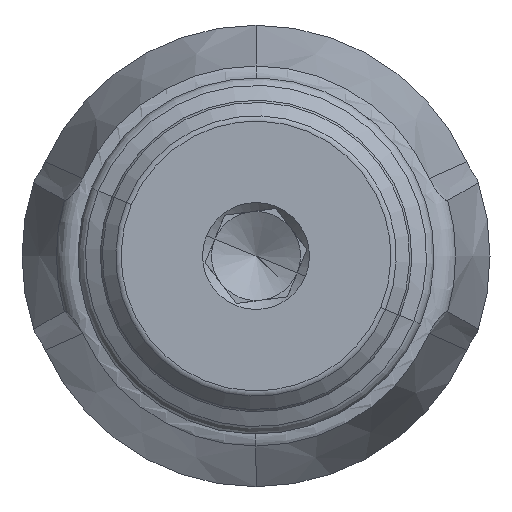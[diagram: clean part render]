
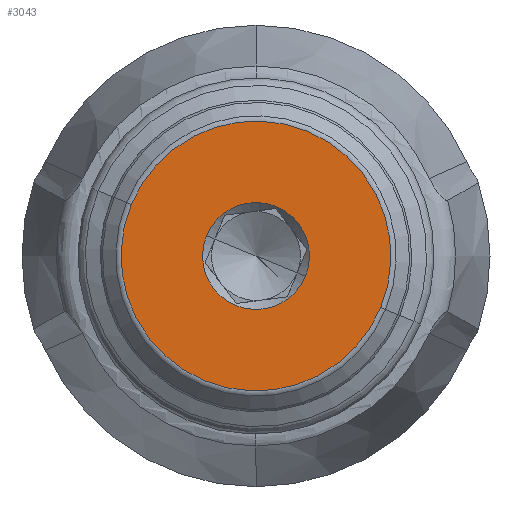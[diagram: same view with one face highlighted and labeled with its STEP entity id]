
A CAD part, left-side view. The second image highlights one B-rep face of the part: STEP entity #3043.
In plain terms, the highlighted planar face has unit normal (-1, 0, 0).
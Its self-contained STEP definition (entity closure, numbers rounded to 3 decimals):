
#882 = AXIS2_PLACEMENT_3D ( 'NONE', #7438, #13236, #7531 ) ;
#1498 = CARTESIAN_POINT ( 'NONE',  ( -68.388, -0.607, 0. ) ) ;
#2628 = ORIENTED_EDGE ( 'NONE', *, *, #9320, .F. ) ;
#2897 = CARTESIAN_POINT ( 'NONE',  ( -68.388, -0.607, 0. ) ) ;
#3043 = ADVANCED_FACE ( 'NONE', ( #5704, #5344 ), #13323, .T. ) ;
#3272 = CIRCLE ( 'NONE', #9980, 9.093 ) ;
#3772 = DIRECTION ( 'NONE',  ( 1., 0., 0. ) ) ;
#3963 = DIRECTION ( 'NONE',  ( 0., -0.924, -0.382 ) ) ;
#4039 = CARTESIAN_POINT ( 'NONE',  ( -68.388, 2.72, 1.375 ) ) ;
#4343 = EDGE_CURVE ( 'NONE', #5880, #13676, #6584, .T. ) ;
#4866 = DIRECTION ( 'NONE',  ( 1., 0., 0. ) ) ;
#4902 = DIRECTION ( 'NONE',  ( 0., -0.924, -0.382 ) ) ;
#5116 = AXIS2_PLACEMENT_3D ( 'NONE', #5125, #10858, #13058 ) ;
#5125 = CARTESIAN_POINT ( 'NONE',  ( -68.388, -0.607, 0. ) ) ;
#5320 = ORIENTED_EDGE ( 'NONE', *, *, #4343, .T. ) ;
#5344 = FACE_OUTER_BOUND ( 'NONE', #10091, .T. ) ;
#5493 = AXIS2_PLACEMENT_3D ( 'NONE', #1498, #4866, #8361 ) ;
#5601 = CIRCLE ( 'NONE', #14832, 9.093 ) ;
#5704 = FACE_BOUND ( 'NONE', #13238, .T. ) ;
#5880 = VERTEX_POINT ( 'NONE', #14998 ) ;
#5948 = EDGE_CURVE ( 'NONE', #13676, #5880, #8007, .T. ) ;
#6266 = CARTESIAN_POINT ( 'NONE',  ( -68.388, -0.607, 0. ) ) ;
#6525 = EDGE_CURVE ( 'NONE', #7489, #12761, #3272, .T. ) ;
#6584 = CIRCLE ( 'NONE', #5116, 3.6 ) ;
#7438 = CARTESIAN_POINT ( 'NONE',  ( -68.388, -4.079, 8.404 ) ) ;
#7489 = VERTEX_POINT ( 'NONE', #10701 ) ;
#7531 = DIRECTION ( 'NONE',  ( 0., 0.924, 0.382 ) ) ;
#8007 = CIRCLE ( 'NONE', #5493, 3.6 ) ;
#8361 = DIRECTION ( 'NONE',  ( 0., -0.924, -0.382 ) ) ;
#9320 = EDGE_CURVE ( 'NONE', #12761, #7489, #5601, .T. ) ;
#9980 = AXIS2_PLACEMENT_3D ( 'NONE', #6266, #3772, #4902 ) ;
#10014 = CARTESIAN_POINT ( 'NONE',  ( -68.388, -9.011, -3.472 ) ) ;
#10091 = EDGE_LOOP ( 'NONE', ( #2628, #13846 ) ) ;
#10701 = CARTESIAN_POINT ( 'NONE',  ( -68.388, 7.797, 3.472 ) ) ;
#10858 = DIRECTION ( 'NONE',  ( 1., 0., 0. ) ) ;
#11026 = DIRECTION ( 'NONE',  ( 1., 0., 0. ) ) ;
#11854 = ORIENTED_EDGE ( 'NONE', *, *, #5948, .T. ) ;
#12761 = VERTEX_POINT ( 'NONE', #10014 ) ;
#13058 = DIRECTION ( 'NONE',  ( 0., -0.924, -0.382 ) ) ;
#13236 = DIRECTION ( 'NONE',  ( -1., 0., 0. ) ) ;
#13238 = EDGE_LOOP ( 'NONE', ( #11854, #5320 ) ) ;
#13323 = PLANE ( 'NONE',  #882 ) ;
#13676 = VERTEX_POINT ( 'NONE', #4039 ) ;
#13846 = ORIENTED_EDGE ( 'NONE', *, *, #6525, .F. ) ;
#14832 = AXIS2_PLACEMENT_3D ( 'NONE', #2897, #11026, #3963 ) ;
#14998 = CARTESIAN_POINT ( 'NONE',  ( -68.388, -3.934, -1.375 ) ) ;
